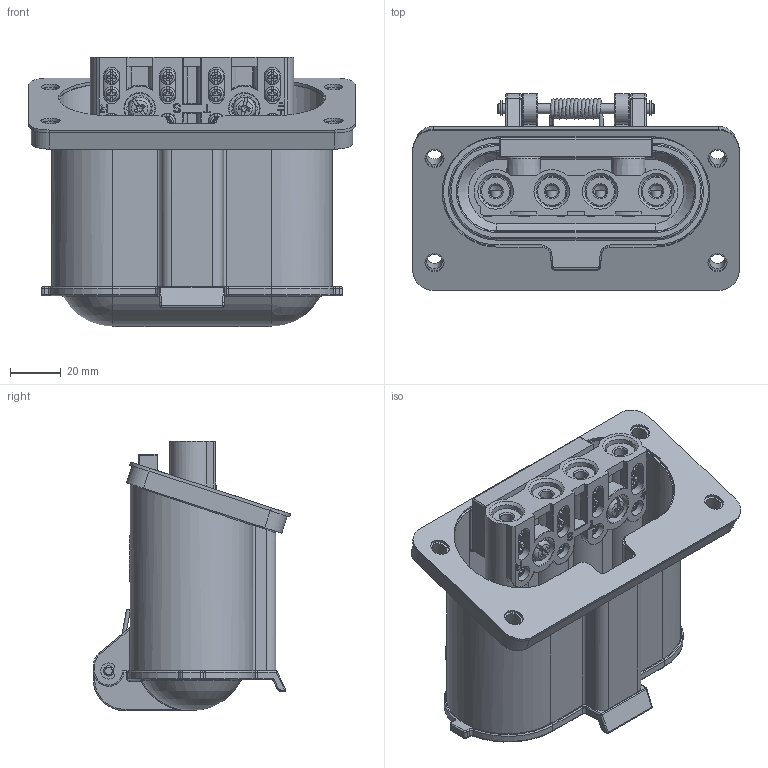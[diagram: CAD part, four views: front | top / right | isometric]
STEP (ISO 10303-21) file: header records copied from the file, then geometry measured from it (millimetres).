
FILE_DESCRIPTION(('Tomada Fixa 40A DIN 49450'),'2;1');
FILE_NAME('E:\WorkFolder\Bibl\3DWeb\Serie\PN\kp_pn_png40_step.stp','2022-06-10T08:05:59',('DIE'),('KAP Componentes Eletricos Ltda.'),'Autodesk Inventor 2011','Autodesk Inventor 2011','Direitos reservados. Proibido reproducao, cedencia ou revelacao de conteudo a terceiros, salvo com autorizacao.');
FILE_SCHEMA(('AUTOMOTIVE_DESIGN { 1 0 10303 214 1 1 1 1 }'));
Length unit declared in the file: millimetre
Products named in the file (1): Part4
Bounding box: 128 x 77.35 x 105.5 mm (x, y, z)
Volume: 209207.8 mm3; surface area: 109295.5 mm2
Topology: 2 solids, 8 shells, 1650 faces, 4379 edges, 2784 vertices
Faces by surface type: plane 855, cylinder 410, torus 119, bspline 108, cone 108, sphere 50
Full cylindrical faces by diameter (mm): 1.5 x3, 3.242 x4, 3.969 x3, 4 x8, 4.134 x2, 4.567 x2, 5 x8, 5.3 x2, 5.5 x2, 6 x4, 6.4 x4, 7.5 x4, 8 x6, 8.4 x1, 11.112 x3, 11.113 x1, 12 x6, 18 x1
Entity records: 56818 total; most frequent: CARTESIAN_POINT 15381, ORIENTED_EDGE 8328, DIRECTION 8193, EDGE_CURVE 4164, AXIS2_PLACEMENT_3D 3007, VERTEX_POINT 2712, VECTOR 2179, LINE 2179
